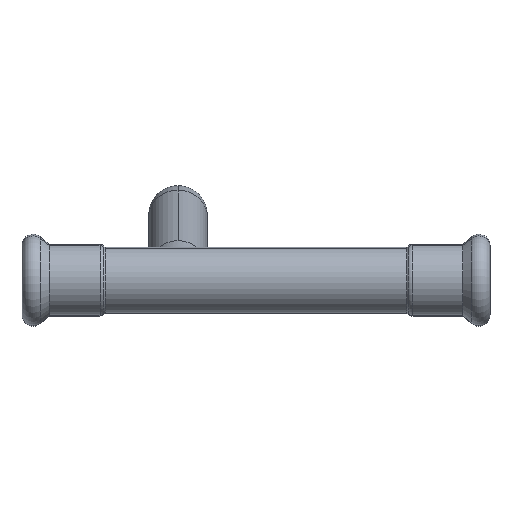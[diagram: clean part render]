
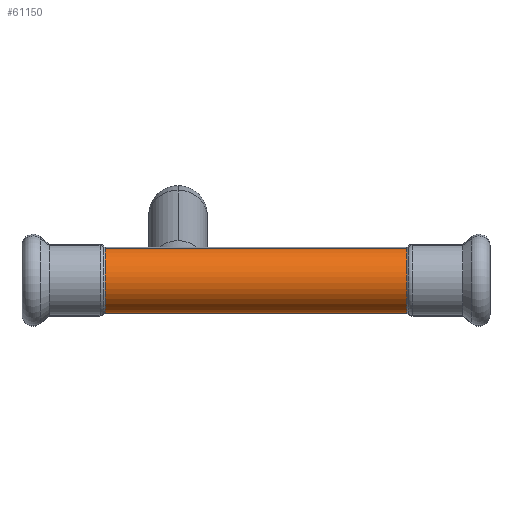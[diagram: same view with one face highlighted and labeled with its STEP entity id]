
A CAD part, top view. The second image highlights one B-rep face of the part: STEP entity #61150.
In plain terms, the highlighted cylindrical face has radius 8.5 mm (diameter 17 mm), a partial arc.
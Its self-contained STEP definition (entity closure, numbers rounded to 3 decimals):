
#43850=CARTESIAN_POINT('',(-54.183,13.523,0.));
#43860=DIRECTION('',(-1.,-0.,-0.));
#43870=DIRECTION('',(0.,1.,0.));
#43880=AXIS2_PLACEMENT_3D('',#43850,#43860,#43870);
#43890=CYLINDRICAL_SURFACE('',#43880,8.5);
#47750=CARTESIAN_POINT('',(-54.183,5.023,
0.));
#47760=DIRECTION('',(-1.,-0.,-0.));
#47770=VECTOR('',#47760,1.);
#47780=LINE('',#47750,#47770);
#47790=CARTESIAN_POINT('',(-15.474,5.023,
0.));
#47800=VERTEX_POINT('',#47790);
#47810=CARTESIAN_POINT('',(-92.892,5.023,
0.));
#47820=VERTEX_POINT('',#47810);
#47830=EDGE_CURVE('',#47800,#47820,#47780,.T.);
#47850=CARTESIAN_POINT('',(-15.474,13.523,0.));
#47860=DIRECTION('',(1.,0.,0.));
#47870=DIRECTION('',(-0.,-1.,-0.));
#47880=AXIS2_PLACEMENT_3D('',#47850,#47860,#47870);
#47890=CIRCLE('',#47880,8.5);
#47900=CARTESIAN_POINT('',(-15.474,22.023,0.));
#47910=VERTEX_POINT('',#47900);
#47940=CARTESIAN_POINT('',(-54.183,22.023,0.));
#47950=DIRECTION('',(-1.,-0.,-0.));
#47960=VECTOR('',#47950,1.);
#47970=LINE('',#47940,#47960);
#47980=CARTESIAN_POINT('',(-92.892,22.023,0.));
#47990=VERTEX_POINT('',#47980);
#48000=EDGE_CURVE('',#47910,#47990,#47970,.T.);
#48020=CARTESIAN_POINT('',(-92.892,13.523,0.));
#48030=DIRECTION('',(-1.,-0.,-0.));
#48040=DIRECTION('',(0.,1.,0.));
#48050=AXIS2_PLACEMENT_3D('',#48020,#48030,#48040);
#48060=CIRCLE('',#48050,8.5);
#56970=EDGE_CURVE('',#47910,#47800,#47890,.T.);
#57310=EDGE_CURVE('',#47820,#47990,#48060,.T.);
#61090=ORIENTED_EDGE('',*,*,#47830,.F.);
#61100=ORIENTED_EDGE('',*,*,#57310,.F.);
#61110=ORIENTED_EDGE('',*,*,#48000,.T.);
#61120=ORIENTED_EDGE('',*,*,#56970,.F.);
#61130=EDGE_LOOP('',(#61120,#61110,#61100,#61090));
#61140=FACE_OUTER_BOUND('',#61130,.T.);
#61150=ADVANCED_FACE('',(#61140),#43890,.T.);
